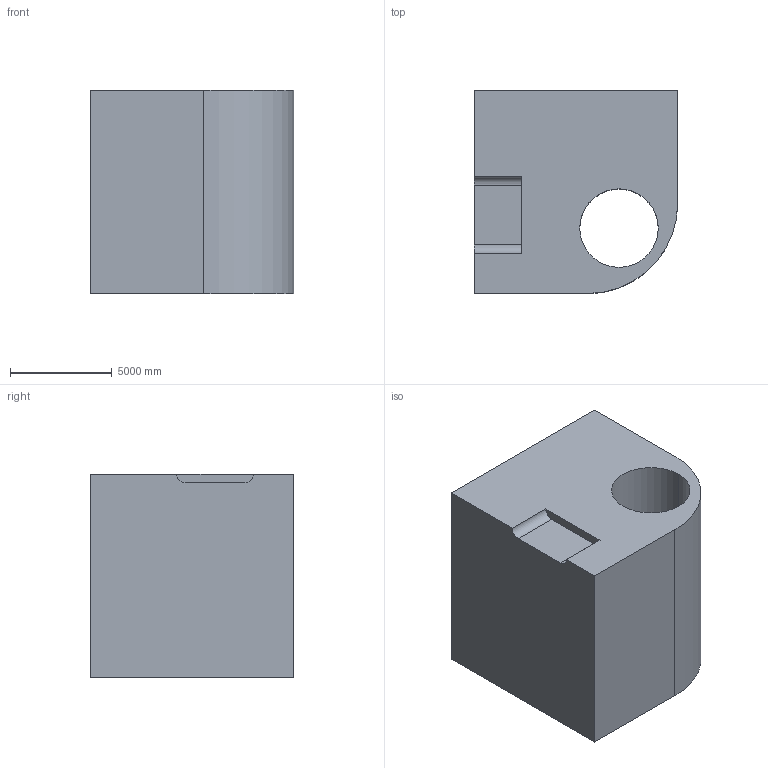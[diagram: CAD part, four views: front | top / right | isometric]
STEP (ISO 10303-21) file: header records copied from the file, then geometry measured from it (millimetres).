
FILE_DESCRIPTION (( 'STEP AP203' ), '1' );
FILE_NAME ('24.STEP', '2022-09-01T11:38:45', ( 'user' ), ( '' ), 'SwSTEP 2.0', 'SolidWorks 2021', '' );
FILE_SCHEMA (( 'CONFIG_CONTROL_DESIGN' ));
Length unit declared in the file: centimetre
Products named in the file (1): 24
Bounding box: 10000 x 10000 x 10000 mm (x, y, z)
Volume: 837412599992.4 mm3; surface area: 671632575.3 mm2
Topology: 1 solids, 1 shells, 13 faces, 33 edges, 22 vertices
Faces by surface type: plane 8, cylinder 5
Entity records: 478 total; most frequent: DIRECTION 71, CARTESIAN_POINT 69, ORIENTED_EDGE 66, EDGE_CURVE 33, AXIS2_PLACEMENT_3D 24, VECTOR 23, LINE 23, VERTEX_POINT 22
